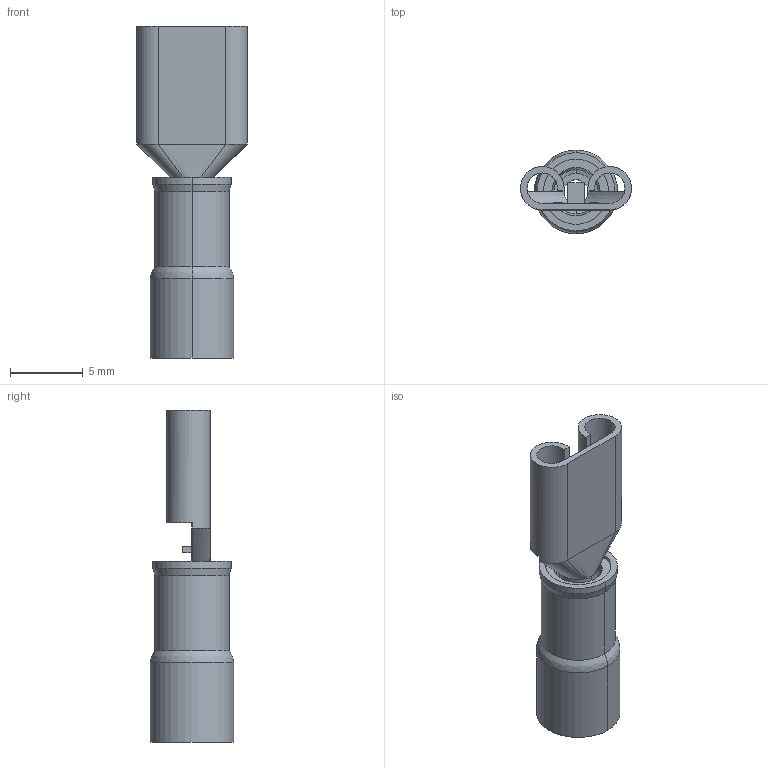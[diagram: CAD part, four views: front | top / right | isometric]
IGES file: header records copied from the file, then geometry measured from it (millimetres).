
Start section:  PTC IGES file: c-0640903-01-j1-3d.igs
Global section: file name: c-0640903-01-j1-3d.igs; native system: Pro/ENGINEER by Parametric Technology Corporation; preprocessor: 2005450; author: workeradm; organization: Unknown; date: 070903.033950; units: millimetre
Bounding box: 7.65 x 5.74 x 22.86 mm (x, y, z)
Surface area: 790.2 mm2 (no closed solid volume)
Topology: 0 solids, 0 shells, 64 faces, 304 edges, 304 vertices
Faces by surface type: revolution 34, bspline 30
